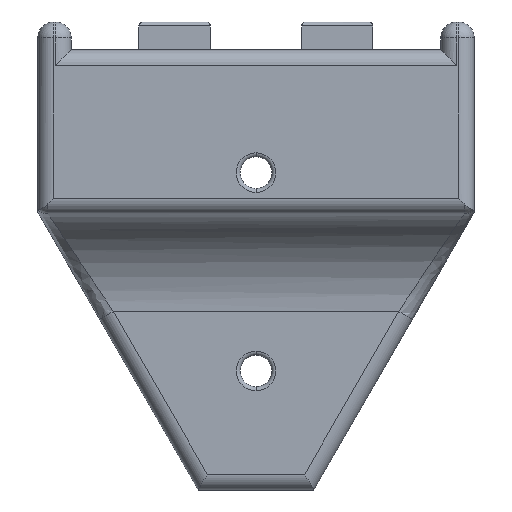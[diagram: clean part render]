
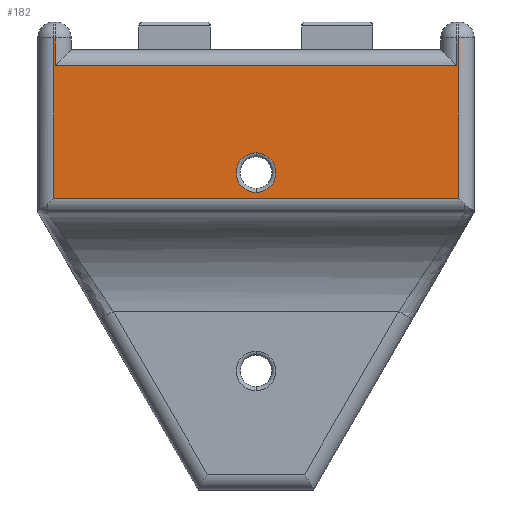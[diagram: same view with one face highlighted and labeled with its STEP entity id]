
A CAD part, front view. The second image highlights one B-rep face of the part: STEP entity #182.
In plain terms, the highlighted planar face has unit normal (0, -1, 0).
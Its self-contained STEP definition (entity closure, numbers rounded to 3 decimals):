
#6 = DIRECTION ( 'NONE',  ( 1., 0., 0. ) ) ;
#29 = AXIS2_PLACEMENT_3D ( 'NONE', #242, #417, #1524 ) ;
#35 = ORIENTED_EDGE ( 'NONE', *, *, #1146, .T. ) ;
#57 = DIRECTION ( 'NONE',  ( 0., 1., 0. ) ) ;
#67 = ORIENTED_EDGE ( 'NONE', *, *, #2264, .T. ) ;
#83 = ORIENTED_EDGE ( 'NONE', *, *, #1662, .T. ) ;
#104 = VECTOR ( 'NONE', #1044, 1000. ) ;
#133 = LINE ( 'NONE', #816, #613 ) ;
#137 = EDGE_CURVE ( 'NONE', #2194, #304, #133, .T. ) ;
#160 = FACE_BOUND ( 'NONE', #461, .T. ) ;
#182 = ADVANCED_FACE ( 'NONE', ( #160, #1970 ), #669, .T. ) ;
#188 = VECTOR ( 'NONE', #1466, 1000. ) ;
#219 = VERTEX_POINT ( 'NONE', #846 ) ;
#230 = ORIENTED_EDGE ( 'NONE', *, *, #137, .T. ) ;
#237 = VECTOR ( 'NONE', #2155, 1000. ) ;
#242 = CARTESIAN_POINT ( 'NONE',  ( 0., -11., -19. ) ) ;
#304 = VERTEX_POINT ( 'NONE', #1259 ) ;
#306 = DIRECTION ( 'NONE',  ( 0., 0., -1. ) ) ;
#310 = CARTESIAN_POINT ( 'NONE',  ( 25.5, -11., -22.207 ) ) ;
#417 = DIRECTION ( 'NONE',  ( 0., 1., 0. ) ) ;
#424 = LINE ( 'NONE', #924, #188 ) ;
#448 = AXIS2_PLACEMENT_3D ( 'NONE', #1043, #1416, #2107 ) ;
#456 = CIRCLE ( 'NONE', #29, 2.5 ) ;
#458 = CARTESIAN_POINT ( 'NONE',  ( 25.5, -11., -2. ) ) ;
#461 = EDGE_LOOP ( 'NONE', ( #1921, #67 ) ) ;
#521 = DIRECTION ( 'NONE',  ( 0., 0., 1. ) ) ;
#537 = CARTESIAN_POINT ( 'NONE',  ( -25.3, -11., 0. ) ) ;
#538 = EDGE_CURVE ( 'NONE', #1035, #2194, #878, .T. ) ;
#545 = ORIENTED_EDGE ( 'NONE', *, *, #1722, .T. ) ;
#587 = DIRECTION ( 'NONE',  ( -1., 0., 0. ) ) ;
#613 = VECTOR ( 'NONE', #306, 1000. ) ;
#619 = VERTEX_POINT ( 'NONE', #1444 ) ;
#669 = PLANE ( 'NONE',  #448 ) ;
#726 = VERTEX_POINT ( 'NONE', #1842 ) ;
#790 = CARTESIAN_POINT ( 'NONE',  ( -25.5, -11., -59. ) ) ;
#796 = ORIENTED_EDGE ( 'NONE', *, *, #838, .T. ) ;
#798 = VERTEX_POINT ( 'NONE', #2205 ) ;
#816 = CARTESIAN_POINT ( 'NONE',  ( 25.3, -11., -3.5 ) ) ;
#838 = EDGE_CURVE ( 'NONE', #304, #1437, #424, .T. ) ;
#846 = CARTESIAN_POINT ( 'NONE',  ( -25.5, -11., -2. ) ) ;
#870 = CIRCLE ( 'NONE', #1137, 2.5 ) ;
#878 = LINE ( 'NONE', #1240, #104 ) ;
#922 = LINE ( 'NONE', #537, #237 ) ;
#924 = CARTESIAN_POINT ( 'NONE',  ( -27.5, -11., -5.5 ) ) ;
#946 = EDGE_CURVE ( 'NONE', #1514, #619, #456, .T. ) ;
#1035 = VERTEX_POINT ( 'NONE', #458 ) ;
#1043 = CARTESIAN_POINT ( 'NONE',  ( -27.5, -11., -59. ) ) ;
#1044 = DIRECTION ( 'NONE',  ( -1., 0., 0. ) ) ;
#1062 = VERTEX_POINT ( 'NONE', #310 ) ;
#1070 = LINE ( 'NONE', #1884, #2104 ) ;
#1089 = CARTESIAN_POINT ( 'NONE',  ( 27.5, -11., -22.207 ) ) ;
#1137 = AXIS2_PLACEMENT_3D ( 'NONE', #2003, #57, #1295 ) ;
#1146 = EDGE_CURVE ( 'NONE', #1062, #1035, #1856, .T. ) ;
#1240 = CARTESIAN_POINT ( 'NONE',  ( -27.5, -11., -2. ) ) ;
#1241 = CARTESIAN_POINT ( 'NONE',  ( 25.5, -11., -59. ) ) ;
#1259 = CARTESIAN_POINT ( 'NONE',  ( 25.3, -11., -5.5 ) ) ;
#1295 = DIRECTION ( 'NONE',  ( 0., 0., -1. ) ) ;
#1416 = DIRECTION ( 'NONE',  ( 0., -1., 0. ) ) ;
#1437 = VERTEX_POINT ( 'NONE', #2017 ) ;
#1444 = CARTESIAN_POINT ( 'NONE',  ( 0., -11., -16.5 ) ) ;
#1466 = DIRECTION ( 'NONE',  ( -1., 0., 0. ) ) ;
#1488 = ORIENTED_EDGE ( 'NONE', *, *, #1969, .T. ) ;
#1504 = CARTESIAN_POINT ( 'NONE',  ( 0., -11., -21.5 ) ) ;
#1514 = VERTEX_POINT ( 'NONE', #1504 ) ;
#1522 = LINE ( 'NONE', #1089, #1629 ) ;
#1524 = DIRECTION ( 'NONE',  ( 0., 0., -1. ) ) ;
#1629 = VECTOR ( 'NONE', #6, 1000. ) ;
#1662 = EDGE_CURVE ( 'NONE', #1437, #726, #922, .T. ) ;
#1722 = EDGE_CURVE ( 'NONE', #798, #1062, #1522, .T. ) ;
#1842 = CARTESIAN_POINT ( 'NONE',  ( -25.3, -11., -2. ) ) ;
#1856 = LINE ( 'NONE', #1241, #1883 ) ;
#1883 = VECTOR ( 'NONE', #521, 1000. ) ;
#1884 = CARTESIAN_POINT ( 'NONE',  ( -27.5, -11., -2. ) ) ;
#1921 = ORIENTED_EDGE ( 'NONE', *, *, #946, .T. ) ;
#1954 = ORIENTED_EDGE ( 'NONE', *, *, #1981, .T. ) ;
#1969 = EDGE_CURVE ( 'NONE', #219, #798, #2296, .T. ) ;
#1970 = FACE_OUTER_BOUND ( 'NONE', #2168, .T. ) ;
#1981 = EDGE_CURVE ( 'NONE', #726, #219, #1070, .T. ) ;
#1984 = VECTOR ( 'NONE', #2054, 1000. ) ;
#2003 = CARTESIAN_POINT ( 'NONE',  ( 0., -11., -19. ) ) ;
#2017 = CARTESIAN_POINT ( 'NONE',  ( -25.3, -11., -5.5 ) ) ;
#2054 = DIRECTION ( 'NONE',  ( 0., 0., -1. ) ) ;
#2075 = CARTESIAN_POINT ( 'NONE',  ( 25.3, -11., -2. ) ) ;
#2104 = VECTOR ( 'NONE', #587, 1000. ) ;
#2107 = DIRECTION ( 'NONE',  ( 0., 0., -1. ) ) ;
#2155 = DIRECTION ( 'NONE',  ( 0., 0., 1. ) ) ;
#2168 = EDGE_LOOP ( 'NONE', ( #230, #796, #83, #1954, #1488, #545, #35, #2281 ) ) ;
#2194 = VERTEX_POINT ( 'NONE', #2075 ) ;
#2205 = CARTESIAN_POINT ( 'NONE',  ( -25.5, -11., -22.207 ) ) ;
#2264 = EDGE_CURVE ( 'NONE', #619, #1514, #870, .T. ) ;
#2281 = ORIENTED_EDGE ( 'NONE', *, *, #538, .T. ) ;
#2296 = LINE ( 'NONE', #790, #1984 ) ;
